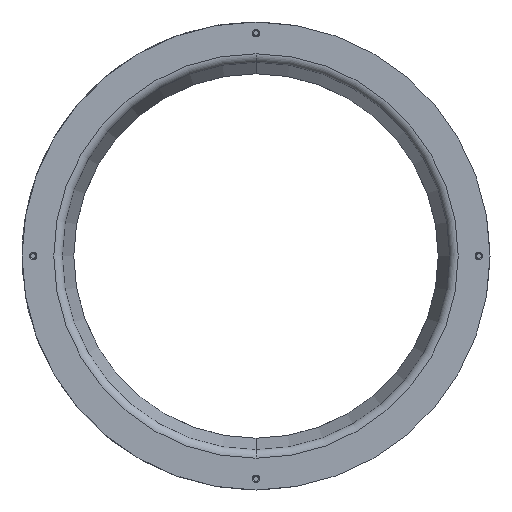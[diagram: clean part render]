
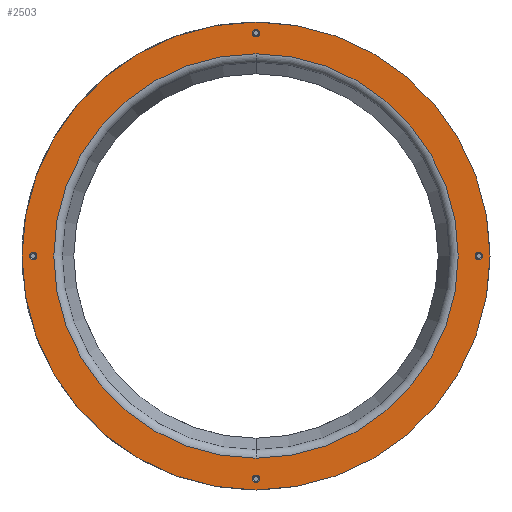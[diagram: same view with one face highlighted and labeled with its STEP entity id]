
A CAD part, front view. The second image highlights one B-rep face of the part: STEP entity #2503.
In plain terms, the highlighted planar face has unit normal (0, -1, 0).
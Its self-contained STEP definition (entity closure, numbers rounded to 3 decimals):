
#68 = EDGE_CURVE ( 'NONE', #141, #2749, #454, .T. ) ;
#78 = AXIS2_PLACEMENT_3D ( 'NONE', #1693, #520, #3130 ) ;
#105 = DIRECTION ( 'NONE',  ( 0., 1., 0. ) ) ;
#113 = VERTEX_POINT ( 'NONE', #1915 ) ;
#135 = CARTESIAN_POINT ( 'NONE',  ( 8.357, 0.678, 307. ) ) ;
#138 = DIRECTION ( 'NONE',  ( 0., -1., 0. ) ) ;
#141 = VERTEX_POINT ( 'NONE', #2504 ) ;
#186 = EDGE_LOOP ( 'NONE', ( #2530, #418 ) ) ;
#216 = CIRCLE ( 'NONE', #3537, 1.6 ) ;
#235 = ORIENTED_EDGE ( 'NONE', *, *, #3024, .F. ) ;
#238 = DIRECTION ( 'NONE',  ( 0., 0., -1. ) ) ;
#305 = CARTESIAN_POINT ( 'NONE',  ( 107.357, 0.678, 209.6 ) ) ;
#327 = EDGE_LOOP ( 'NONE', ( #3065, #683 ) ) ;
#330 = AXIS2_PLACEMENT_3D ( 'NONE', #390, #105, #2121 ) ;
#342 = DIRECTION ( 'NONE',  ( 0., 1., 0. ) ) ;
#378 = DIRECTION ( 'NONE',  ( 0., 1., 0. ) ) ;
#390 = CARTESIAN_POINT ( 'NONE',  ( 8.357, 0.678, 208. ) ) ;
#418 = ORIENTED_EDGE ( 'NONE', *, *, #3153, .F. ) ;
#439 = AXIS2_PLACEMENT_3D ( 'NONE', #1856, #138, #998 ) ;
#444 = CIRCLE ( 'NONE', #2972, 104. ) ;
#454 = CIRCLE ( 'NONE', #1989, 104. ) ;
#490 = CARTESIAN_POINT ( 'NONE',  ( 8.357, 0.678, 110.6 ) ) ;
#520 = DIRECTION ( 'NONE',  ( 0., 1., 0. ) ) ;
#558 = EDGE_CURVE ( 'NONE', #3483, #1278, #2573, .T. ) ;
#575 = VERTEX_POINT ( 'NONE', #1573 ) ;
#598 = PLANE ( 'NONE',  #1479 ) ;
#630 = CARTESIAN_POINT ( 'NONE',  ( 8.357, 0.678, 312. ) ) ;
#643 = ORIENTED_EDGE ( 'NONE', *, *, #2354, .T. ) ;
#680 = CIRCLE ( 'NONE', #2100, 1.6 ) ;
#683 = ORIENTED_EDGE ( 'NONE', *, *, #1895, .F. ) ;
#691 = CARTESIAN_POINT ( 'NONE',  ( 8.357, 0.678, 208. ) ) ;
#701 = DIRECTION ( 'NONE',  ( 0., -1., 0. ) ) ;
#760 = CIRCLE ( 'NONE', #2520, 1.6 ) ;
#825 = CARTESIAN_POINT ( 'NONE',  ( 107.357, 0.678, 208. ) ) ;
#826 = DIRECTION ( 'NONE',  ( 0., 0., -1. ) ) ;
#851 = VERTEX_POINT ( 'NONE', #2916 ) ;
#870 = VERTEX_POINT ( 'NONE', #2363 ) ;
#998 = DIRECTION ( 'NONE',  ( 0., 0., -1. ) ) ;
#1014 = CIRCLE ( 'NONE', #78, 89.879 ) ;
#1030 = VERTEX_POINT ( 'NONE', #490 ) ;
#1040 = CARTESIAN_POINT ( 'NONE',  ( 8.357, 0.678, 208. ) ) ;
#1047 = CARTESIAN_POINT ( 'NONE',  ( -90.643, 0.678, 208. ) ) ;
#1050 = EDGE_CURVE ( 'NONE', #851, #1030, #680, .T. ) ;
#1052 = DIRECTION ( 'NONE',  ( 0., 1., 0. ) ) ;
#1086 = DIRECTION ( 'NONE',  ( 0., 0., 1. ) ) ;
#1111 = VERTEX_POINT ( 'NONE', #3570 ) ;
#1151 = CARTESIAN_POINT ( 'NONE',  ( 8.357, 0.678, 307. ) ) ;
#1181 = CIRCLE ( 'NONE', #2246, 1.6 ) ;
#1218 = AXIS2_PLACEMENT_3D ( 'NONE', #135, #701, #2743 ) ;
#1278 = VERTEX_POINT ( 'NONE', #305 ) ;
#1299 = DIRECTION ( 'NONE',  ( 0., -1., 0. ) ) ;
#1350 = DIRECTION ( 'NONE',  ( 0., -1., 0. ) ) ;
#1402 = EDGE_LOOP ( 'NONE', ( #1792, #3323 ) ) ;
#1444 = DIRECTION ( 'NONE',  ( 0., 0., -1. ) ) ;
#1479 = AXIS2_PLACEMENT_3D ( 'NONE', #1739, #342, #2023 ) ;
#1573 = CARTESIAN_POINT ( 'NONE',  ( 8.357, 0.678, 305.4 ) ) ;
#1693 = CARTESIAN_POINT ( 'NONE',  ( 8.357, 0.678, 208. ) ) ;
#1701 = FACE_BOUND ( 'NONE', #327, .T. ) ;
#1739 = CARTESIAN_POINT ( 'NONE',  ( 8.357, 0.678, 208. ) ) ;
#1792 = ORIENTED_EDGE ( 'NONE', *, *, #2959, .F. ) ;
#1815 = ORIENTED_EDGE ( 'NONE', *, *, #1857, .F. ) ;
#1822 = VERTEX_POINT ( 'NONE', #2365 ) ;
#1845 = AXIS2_PLACEMENT_3D ( 'NONE', #825, #1350, #238 ) ;
#1856 = CARTESIAN_POINT ( 'NONE',  ( 107.357, 0.678, 208. ) ) ;
#1857 = EDGE_CURVE ( 'NONE', #870, #1822, #216, .T. ) ;
#1895 = EDGE_CURVE ( 'NONE', #1030, #851, #2833, .T. ) ;
#1897 = DIRECTION ( 'NONE',  ( 0., 0., -1. ) ) ;
#1915 = CARTESIAN_POINT ( 'NONE',  ( 8.357, 0.678, 118.121 ) ) ;
#1947 = CIRCLE ( 'NONE', #1845, 1.6 ) ;
#1984 = CARTESIAN_POINT ( 'NONE',  ( 8.357, 0.678, 109. ) ) ;
#1989 = AXIS2_PLACEMENT_3D ( 'NONE', #1040, #1052, #1086 ) ;
#2023 = DIRECTION ( 'NONE',  ( 0., 0., 1. ) ) ;
#2033 = DIRECTION ( 'NONE',  ( 0., -1., 0. ) ) ;
#2100 = AXIS2_PLACEMENT_3D ( 'NONE', #3577, #1299, #1897 ) ;
#2121 = DIRECTION ( 'NONE',  ( 0., 0., 1. ) ) ;
#2190 = DIRECTION ( 'NONE',  ( 0., -1., 0. ) ) ;
#2246 = AXIS2_PLACEMENT_3D ( 'NONE', #1047, #2190, #2732 ) ;
#2354 = EDGE_CURVE ( 'NONE', #1111, #113, #1014, .T. ) ;
#2363 = CARTESIAN_POINT ( 'NONE',  ( -90.643, 0.678, 206.4 ) ) ;
#2364 = EDGE_LOOP ( 'NONE', ( #2986, #3009 ) ) ;
#2365 = CARTESIAN_POINT ( 'NONE',  ( -90.643, 0.678, 209.6 ) ) ;
#2421 = EDGE_CURVE ( 'NONE', #3460, #575, #760, .T. ) ;
#2446 = CIRCLE ( 'NONE', #1218, 1.6 ) ;
#2503 = ADVANCED_FACE ( 'NONE', ( #3549, #2564, #1701, #3590, #3510, #2694 ), #598, .F. ) ;
#2504 = CARTESIAN_POINT ( 'NONE',  ( 8.357, 0.678, 104. ) ) ;
#2520 = AXIS2_PLACEMENT_3D ( 'NONE', #1151, #2033, #1444 ) ;
#2530 = ORIENTED_EDGE ( 'NONE', *, *, #558, .F. ) ;
#2551 = CARTESIAN_POINT ( 'NONE',  ( -90.643, 0.678, 208. ) ) ;
#2562 = DIRECTION ( 'NONE',  ( 0., -1., 0. ) ) ;
#2564 = FACE_BOUND ( 'NONE', #3027, .T. ) ;
#2573 = CIRCLE ( 'NONE', #439, 1.6 ) ;
#2687 = DIRECTION ( 'NONE',  ( 0., 0., 1. ) ) ;
#2694 = FACE_BOUND ( 'NONE', #3563, .T. ) ;
#2732 = DIRECTION ( 'NONE',  ( 0., 0., -1. ) ) ;
#2743 = DIRECTION ( 'NONE',  ( 0., 0., -1. ) ) ;
#2749 = VERTEX_POINT ( 'NONE', #630 ) ;
#2818 = EDGE_CURVE ( 'NONE', #2749, #141, #444, .T. ) ;
#2833 = CIRCLE ( 'NONE', #2992, 1.6 ) ;
#2916 = CARTESIAN_POINT ( 'NONE',  ( 8.357, 0.678, 107.4 ) ) ;
#2919 = EDGE_CURVE ( 'NONE', #113, #1111, #3103, .T. ) ;
#2951 = ORIENTED_EDGE ( 'NONE', *, *, #2919, .T. ) ;
#2959 = EDGE_CURVE ( 'NONE', #575, #3460, #2446, .T. ) ;
#2972 = AXIS2_PLACEMENT_3D ( 'NONE', #691, #378, #2687 ) ;
#2979 = CARTESIAN_POINT ( 'NONE',  ( 8.357, 0.678, 308.6 ) ) ;
#2986 = ORIENTED_EDGE ( 'NONE', *, *, #2818, .F. ) ;
#2992 = AXIS2_PLACEMENT_3D ( 'NONE', #1984, #3635, #3621 ) ;
#3009 = ORIENTED_EDGE ( 'NONE', *, *, #68, .F. ) ;
#3024 = EDGE_CURVE ( 'NONE', #1822, #870, #1181, .T. ) ;
#3027 = EDGE_LOOP ( 'NONE', ( #1815, #235 ) ) ;
#3065 = ORIENTED_EDGE ( 'NONE', *, *, #1050, .F. ) ;
#3103 = CIRCLE ( 'NONE', #330, 89.879 ) ;
#3130 = DIRECTION ( 'NONE',  ( 0., 0., 1. ) ) ;
#3153 = EDGE_CURVE ( 'NONE', #1278, #3483, #1947, .T. ) ;
#3323 = ORIENTED_EDGE ( 'NONE', *, *, #2421, .F. ) ;
#3460 = VERTEX_POINT ( 'NONE', #2979 ) ;
#3483 = VERTEX_POINT ( 'NONE', #3543 ) ;
#3510 = FACE_OUTER_BOUND ( 'NONE', #2364, .T. ) ;
#3537 = AXIS2_PLACEMENT_3D ( 'NONE', #2551, #2562, #826 ) ;
#3543 = CARTESIAN_POINT ( 'NONE',  ( 107.357, 0.678, 206.4 ) ) ;
#3549 = FACE_BOUND ( 'NONE', #1402, .T. ) ;
#3563 = EDGE_LOOP ( 'NONE', ( #643, #2951 ) ) ;
#3570 = CARTESIAN_POINT ( 'NONE',  ( 8.357, 0.678, 297.879 ) ) ;
#3577 = CARTESIAN_POINT ( 'NONE',  ( 8.357, 0.678, 109. ) ) ;
#3590 = FACE_BOUND ( 'NONE', #186, .T. ) ;
#3621 = DIRECTION ( 'NONE',  ( 0., 0., -1. ) ) ;
#3635 = DIRECTION ( 'NONE',  ( 0., -1., 0. ) ) ;
